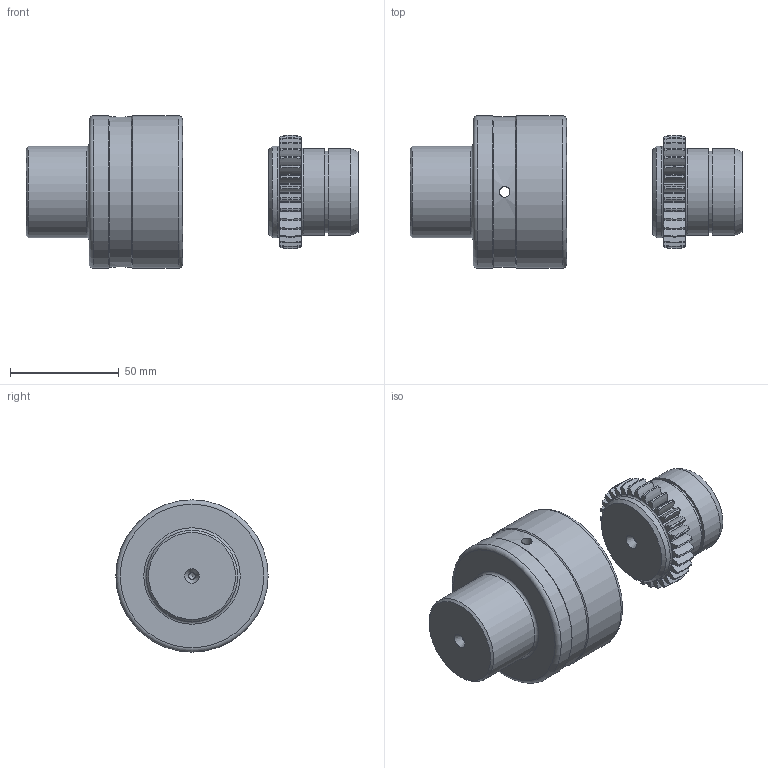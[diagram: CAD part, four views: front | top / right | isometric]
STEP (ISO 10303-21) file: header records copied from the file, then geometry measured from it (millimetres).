
FILE_DESCRIPTION(/* description */ (''),/* implementation_level */ '2;1');
FILE_NAME(/* name */ 'Z:\Amir\Disegni 3D\GIFLEX\GIFLEX GFAS\GFAS-25\Assieme - Manicotto corto Mozzo corto.stp',/* time_stamp */ '2015-05-14T15:53:08+02:00',/* author */ ('Amir.Elmekauy'),/* organization */ (''),/* preprocessor_version */ 'ST-DEVELOPER v15.6',/* originating_system */ 'Autodesk Inventor 2015',/* authorisation */ '');
FILE_SCHEMA (('AUTOMOTIVE_DESIGN { 1 0 10303 214 3 1 1 }'));
Length unit declared in the file: millimetre
Products named in the file (3): Mozzo dentato corto; Campana dentata corta; Assieme - Manicotto corto Mozzo corto
Bounding box: 152.71 x 70 x 70 mm (x, y, z)
Volume: 186368.9 mm3; surface area: 37936.5 mm2
Topology: 2 solids, 2 shells, 463 faces, 1404 edges, 950 vertices
Faces by surface type: cylinder 240, cone 142, plane 43, sphere 32, torus 6
Full cylindrical faces by diameter (mm): 3.15 x4, 4.92 x2, 37.5 x1, 40 x2, 42 x2, 53.5 x1, 60 x1, 69 x1, 70 x2
Entity records: 16868 total; most frequent: CARTESIAN_POINT 4562, ORIENTED_EDGE 2714, DIRECTION 2554, EDGE_CURVE 1357, AXIS2_PLACEMENT_3D 1181, VERTEX_POINT 941, CIRCLE 713, EDGE_LOOP 510
